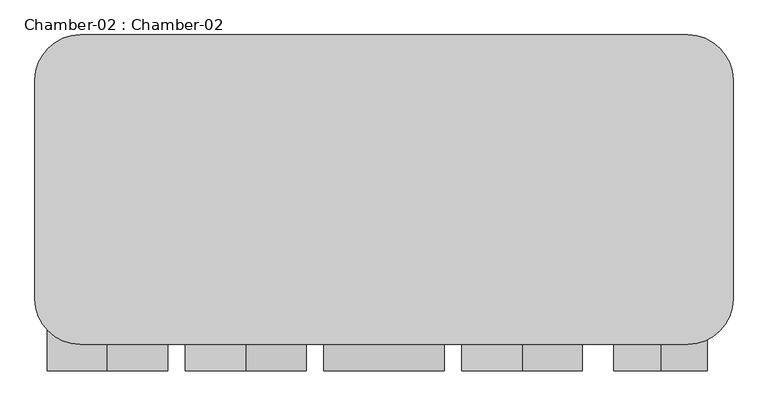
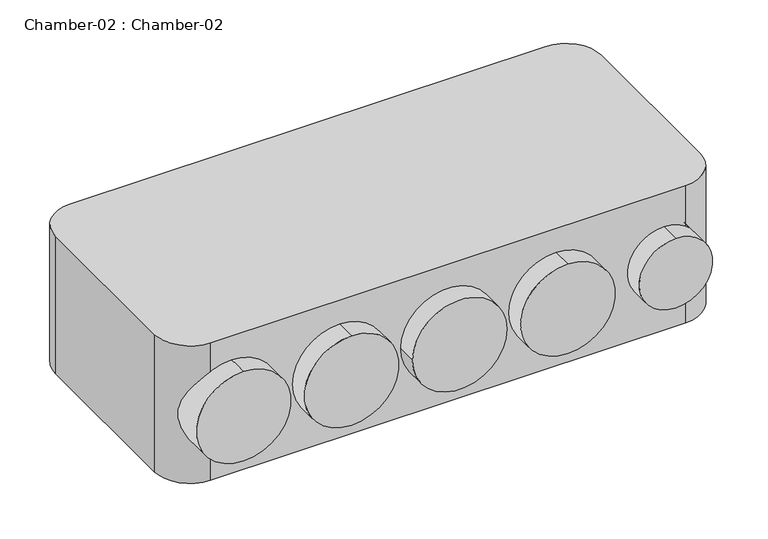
"""IFC4 building model written with IfcOpenShell, lengths in millimetres: damper geometry, Chamber-02 : Chamber-02."""

from ifc_helpers import new_model, si_unit, point, frame, frame_2d, origin, origin_with_axes, place, context, project, spatial, polyline, circle_curve, trimmed, segment, composite_curve, outline, extrude, source, transform, mapped, element, save


def chamber_02_chamber_02_f8d2bf4d(model_context):
    return source(origin(), model_context, "Body", "SweptSolid", [
        extrude(outline(composite_curve([segment(trimmed(circle_curve(frame_2d((1005.0, 362.5)), 150.0), [point((1005.0, 512.5))], [point((1155.0, 362.5))], False, "CARTESIAN"), True, "CONTINUOUS"), segment(polyline([(1155.0, 362.5), (1155.0, -362.5)]), True, "CONTINUOUS"), segment(trimmed(circle_curve(frame_2d((1005.0, -362.5)), 150.0), [point((1155.0, -362.5))], [point((1005.0, -512.5))], False, "CARTESIAN"), True, "CONTINUOUS"), segment(polyline([(1005.0, -512.5), (-1005.0, -512.5)]), True, "CONTINUOUS"), segment(trimmed(circle_curve(frame_2d((-1005.0, -362.5)), 150.0), [point((-1005.0, -512.5))], [point((-1155.0, -362.5))], False, "CARTESIAN"), True, "CONTINUOUS"), segment(polyline([(-1155.0, -362.5), (-1155.0, 362.5)]), True, "CONTINUOUS"), segment(trimmed(circle_curve(frame_2d((-1005.0, 362.5)), 150.0), [point((-1155.0, 362.5))], [point((-1005.0, 512.5))], False, "CARTESIAN"), True, "CONTINUOUS"), segment(polyline([(-1005.0, 512.5), (1005.0, 512.5)]), True, "CONTINUOUS")], self_intersect=False)), origin_with_axes(), (0.0, 0.0, 1.0), 615.0),
        extrude(outline(composite_curve([segment(trimmed(circle_curve(frame_2d((307.5, -457.5)), 200.0), [point((507.5, -457.5))], [point((107.5, -457.5))], False, "CARTESIAN"), True, "CONTINUOUS"), segment(trimmed(circle_curve(frame_2d((307.5, -457.5)), 200.0), [point((107.5, -457.5))], [point((507.5, -457.5))], False, "CARTESIAN"), True, "CONTINUOUS")], self_intersect=False)), frame((0.0, -600.0, 0.0), z_axis=(0.0, 1.0, 0.0), x_axis=(0.0, 0.0, 1.0)), (0.0, 0.0, 1.0), 87.5),
        extrude(outline(composite_curve([segment(trimmed(circle_curve(frame_2d((307.5, 915.0)), 155.0), [point((462.5, 915.0))], [point((152.5, 915.0))], False, "CARTESIAN"), True, "CONTINUOUS"), segment(trimmed(circle_curve(frame_2d((307.5, 915.0)), 155.0), [point((152.5, 915.0))], [point((462.5, 915.0))], False, "CARTESIAN"), True, "CONTINUOUS")], self_intersect=False)), frame((0.0, -600.0, 0.0), z_axis=(0.0, 1.0, 0.0), x_axis=(0.0, 0.0, 1.0)), (0.0, 0.0, 1.0), 137.0),
        extrude(outline(composite_curve([segment(trimmed(circle_curve(frame_2d((307.5, 457.5)), 200.0), [point((507.5, 457.5))], [point((107.5, 457.5))], False, "CARTESIAN"), True, "CONTINUOUS"), segment(trimmed(circle_curve(frame_2d((307.5, 457.5)), 200.0), [point((107.5, 457.5))], [point((507.5, 457.5))], False, "CARTESIAN"), True, "CONTINUOUS")], self_intersect=False)), frame((0.0, -600.0, 0.0), z_axis=(0.0, 1.0, 0.0), x_axis=(0.0, 0.0, 1.0)), (0.0, 0.0, 1.0), 87.5),
        extrude(outline(composite_curve([segment(trimmed(circle_curve(frame_2d((307.5, 0.0)), 200.0), [point((307.5, -200.0))], [point((307.5, 200.0))], False, "CARTESIAN"), True, "CONTINUOUS"), segment(trimmed(circle_curve(frame_2d((307.5, 0.0)), 200.0), [point((307.5, 200.0))], [point((307.5, -200.0))], False, "CARTESIAN"), True, "CONTINUOUS")], self_intersect=False)), frame((0.0, -600.0, 0.0), z_axis=(0.0, 1.0, 0.0), x_axis=(0.0, 0.0, 1.0)), (0.0, 0.0, 1.0), 87.5),
        extrude(outline(composite_curve([segment(trimmed(circle_curve(frame_2d((307.5, 457.5)), 200.0), [point((107.5, 457.5))], [point((507.5, 457.5))], False, "CARTESIAN"), True, "CONTINUOUS"), segment(trimmed(circle_curve(frame_2d((307.5, 457.5)), 200.0), [point((507.5, 457.5))], [point((107.5, 457.5))], False, "CARTESIAN"), True, "CONTINUOUS")], self_intersect=False)), frame((0.0, -600.0, 0.0), z_axis=(0.0, 1.0, 0.0), x_axis=(0.0, 0.0, 1.0)), (0.0, 0.0, 1.0), 87.5),
        extrude(outline(composite_curve([segment(trimmed(circle_curve(frame_2d((307.5, -915.0)), 200.0), [point((107.5, -915.0))], [point((507.5, -915.0))], False, "CARTESIAN"), True, "CONTINUOUS"), segment(trimmed(circle_curve(frame_2d((307.5, -915.0)), 200.0), [point((507.5, -915.0))], [point((107.5, -915.0))], False, "CARTESIAN"), True, "CONTINUOUS")], self_intersect=False)), frame((0.0, -600.0, 0.0), z_axis=(0.0, 1.0, 0.0), x_axis=(0.0, 0.0, 1.0)), (0.0, 0.0, 1.0), 137.0),
    ])


if __name__ == "__main__":
    model = new_model("IFC4")
    model_context = context("Model", 3, world=origin())
    ifc_project = project(units=[si_unit("LENGTHUNIT", "METRE", prefix="MILLI")], contexts=[model_context])
    site = spatial("IfcSite", under=ifc_project)
    building = spatial("IfcBuilding", under=site)
    placement = place(None, origin())
    chamber_02_chamber_02_shape = chamber_02_chamber_02_f8d2bf4d(model_context)
    element("IfcDamper", 1, ObjectType="Chamber-02 : Chamber-02", at=placement, inside=building, context=model_context, shape_type="MappedRepresentation", body=[
        mapped(chamber_02_chamber_02_shape, transform((0.0, 0.0, 0.0), x_axis=(1.0, 0.0, 0.0), y_axis=(0.0, 1.0, 0.0), z_axis=(0.0, 0.0, 1.0))),
    ])
    save(model, "model.ifc")
